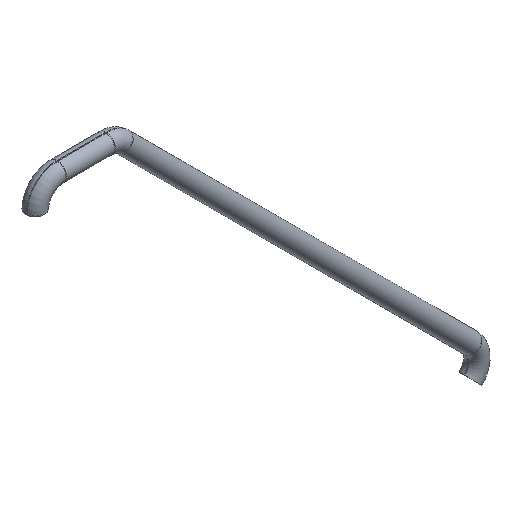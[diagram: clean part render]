
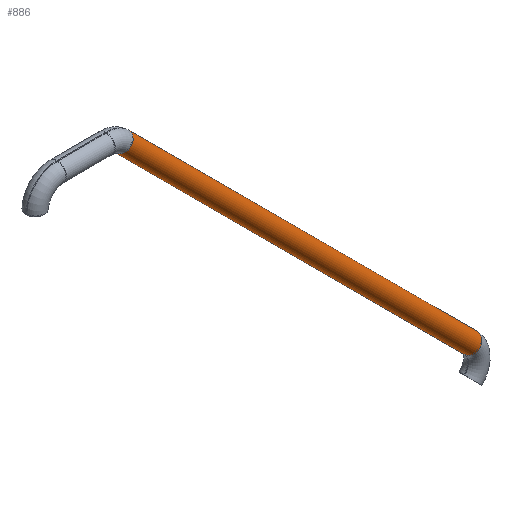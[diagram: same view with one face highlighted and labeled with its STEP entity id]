
A CAD part, isometric view. The second image highlights one B-rep face of the part: STEP entity #886.
In plain terms, the highlighted cylindrical face has radius 24.15 mm (diameter 48.3 mm), a partial arc.
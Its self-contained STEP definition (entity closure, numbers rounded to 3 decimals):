
#57 = CARTESIAN_POINT ( 'NONE',  ( 7132.198, 2915., 5339.499 ) ) ;
#60 = VECTOR ( 'NONE', #910, 1000. ) ;
#64 = ORIENTED_EDGE ( 'NONE', *, *, #329, .F. ) ;
#82 = FACE_OUTER_BOUND ( 'NONE', #257, .T. ) ;
#92 = DIRECTION ( 'NONE',  ( -0.707, 0., -0.707 ) ) ;
#110 = CIRCLE ( 'NONE', #401, 24.15 ) ;
#133 = CARTESIAN_POINT ( 'NONE',  ( 7149.274, 2915., 5356.576 ) ) ;
#147 = ORIENTED_EDGE ( 'NONE', *, *, #601, .F. ) ;
#163 = VERTEX_POINT ( 'NONE', #322 ) ;
#171 = DIRECTION ( 'NONE',  ( 0.707, 0., -0.707 ) ) ;
#213 = VERTEX_POINT ( 'NONE', #341 ) ;
#257 = EDGE_LOOP ( 'NONE', ( #147, #64, #539, #748 ) ) ;
#274 = CARTESIAN_POINT ( 'NONE',  ( 7166.351, 2915., 5373.652 ) ) ;
#275 = VERTEX_POINT ( 'NONE', #274 ) ;
#322 = CARTESIAN_POINT ( 'NONE',  ( 6263.772, 2915., 6276.232 ) ) ;
#329 = EDGE_CURVE ( 'NONE', #275, #213, #680, .T. ) ;
#341 = CARTESIAN_POINT ( 'NONE',  ( 7132.198, 2915., 5339.499 ) ) ;
#401 = AXIS2_PLACEMENT_3D ( 'NONE', #808, #171, #92 ) ;
#419 = DIRECTION ( 'NONE',  ( 0.707, 0., -0.707 ) ) ;
#433 = CARTESIAN_POINT ( 'NONE',  ( 7149.274, 2915., 5356.576 ) ) ;
#434 = VERTEX_POINT ( 'NONE', #591 ) ;
#491 = LINE ( 'NONE', #778, #668 ) ;
#539 = ORIENTED_EDGE ( 'NONE', *, *, #743, .T. ) ;
#550 = LINE ( 'NONE', #57, #60 ) ;
#591 = CARTESIAN_POINT ( 'NONE',  ( 6229.618, 2915., 6242.078 ) ) ;
#601 = EDGE_CURVE ( 'NONE', #213, #434, #550, .T. ) ;
#622 = AXIS2_PLACEMENT_3D ( 'NONE', #433, #652, #853 ) ;
#652 = DIRECTION ( 'NONE',  ( -0.707, 0., 0.707 ) ) ;
#668 = VECTOR ( 'NONE', #707, 1000. ) ;
#680 = CIRCLE ( 'NONE', #787, 24.15 ) ;
#701 = DIRECTION ( 'NONE',  ( -0.707, 0., -0.707 ) ) ;
#707 = DIRECTION ( 'NONE',  ( -0.707, 0., 0.707 ) ) ;
#709 = CYLINDRICAL_SURFACE ( 'NONE', #622, 24.15 ) ;
#743 = EDGE_CURVE ( 'NONE', #275, #163, #491, .T. ) ;
#748 = ORIENTED_EDGE ( 'NONE', *, *, #843, .T. ) ;
#778 = CARTESIAN_POINT ( 'NONE',  ( 7166.351, 2915., 5373.652 ) ) ;
#787 = AXIS2_PLACEMENT_3D ( 'NONE', #133, #419, #701 ) ;
#808 = CARTESIAN_POINT ( 'NONE',  ( 6246.695, 2915., 6259.155 ) ) ;
#843 = EDGE_CURVE ( 'NONE', #163, #434, #110, .T. ) ;
#853 = DIRECTION ( 'NONE',  ( 0.707, 0., 0.707 ) ) ;
#886 = ADVANCED_FACE ( 'NONE', ( #82 ), #709, .T. ) ;
#910 = DIRECTION ( 'NONE',  ( -0.707, 0., 0.707 ) ) ;
